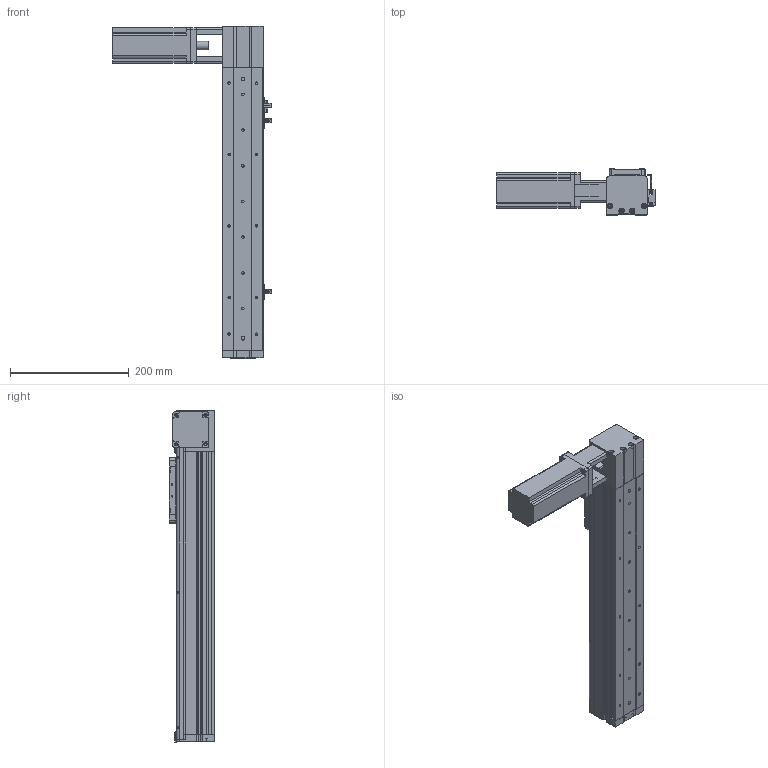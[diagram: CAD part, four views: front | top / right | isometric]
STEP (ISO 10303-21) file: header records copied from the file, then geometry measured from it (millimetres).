
FILE_DESCRIPTION (( 'STEP AP214' ), '1' );
FILE_NAME ('KSD68BS-S300-MLT-CR.STEP', '2019-08-28T03:15:37', ( '微软用户' ), ( '微软中国' ), 'SwSTEP 2.0', 'SolidWorks 2014', '' );
FILE_SCHEMA (( 'AUTOMOTIVE_DESIGN' ));
Length unit declared in the file: millimetre
Products named in the file (13): 68宽单导轨全封闭同步带端板; 68单导轨全封闭同步带电机座右; 68单导轨全封闭同步带安装板; 感应片68宽全封闭; U倰嫖萇EEㄜSX672; 台达ECMA－C20604AS伺服电机（400W); KSD68BS 300行程底板全封闭; KSD68BS-S300-MLT-CR; 100遵鎮湛假蚾啣1; KSD68BS 300行程盖板全封闭; 68遵裔啣揤啣1; 68宽单导轨全封闭丝杆传动安装板1防护罩; KSD68BS 300行程侧板全封闭
Assembly tree (16 placements, depth 2):
  KSD68BS-S300-MLT-CR
    KSD68BS 300行程底板全封闭
    台达ECMA－C20604AS伺服电机（400W)
    U倰嫖萇EEㄜSX672  x3
    感应片68宽全封闭
    68单导轨全封闭同步带安装板
    68单导轨全封闭同步带电机座右
    68宽单导轨全封闭同步带端板
    KSD68BS 300行程侧板全封闭  x2
    68宽单导轨全封闭丝杆传动安装板1防护罩
    68遵裔啣揤啣1  x2
    KSD68BS 300行程盖板全封闭
    100遵鎮湛假蚾啣1
Bounding box: 266.4 x 77 x 558.1 mm (x, y, z)
Volume: 1543203 mm3; surface area: 488531.5 mm2
Topology: 17 solids, 17 shells, 1312 faces, 3692 edges, 2371 vertices
Faces by surface type: plane 596, cylinder 584, cone 132
Entity records: 40453 total; most frequent: CARTESIAN_POINT 6731, DIRECTION 6072, ORIENTED_EDGE 5820, EDGE_CURVE 2910, AXIS2_PLACEMENT_3D 2158, VERTEX_POINT 1909, LINE 1756, VECTOR 1756
